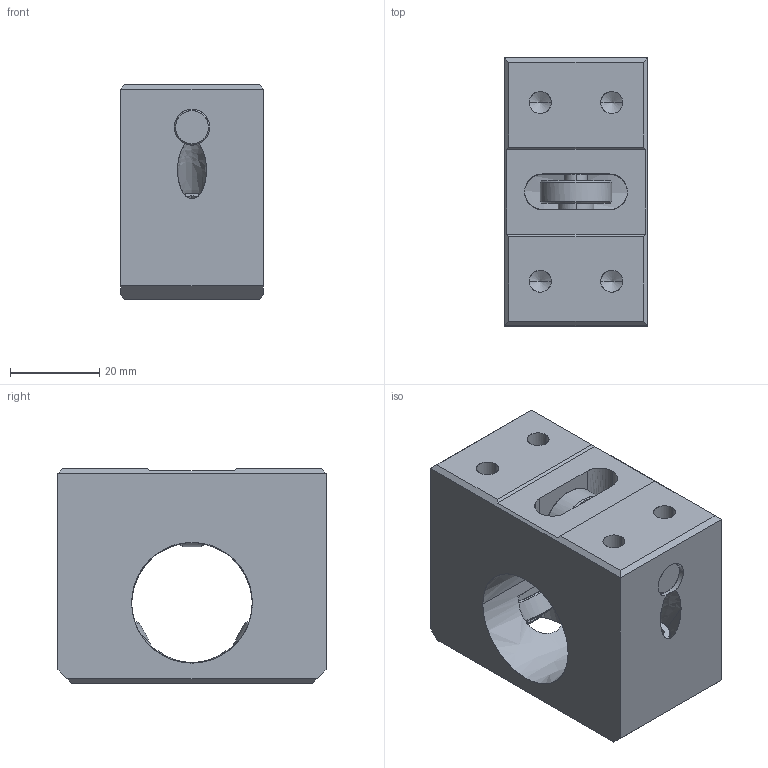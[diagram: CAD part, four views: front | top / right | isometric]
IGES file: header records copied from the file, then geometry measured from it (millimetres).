
Global section: file name: No Iges File Name specified; native system: AutoDesk Inventor R10; preprocessor: AutoDesk Inventor Iges Exporter R10; author: No Author specified; organization: No Organization specified; date: 20101222.161327; units: millimetre
Bounding box: 32 x 60 x 48 mm (x, y, z)
Surface area: 18933.5 mm2 (no closed solid volume)
Topology: 0 solids, 0 shells, 147 faces, 1076 edges, 1062 vertices
Faces by surface type: bspline 147
